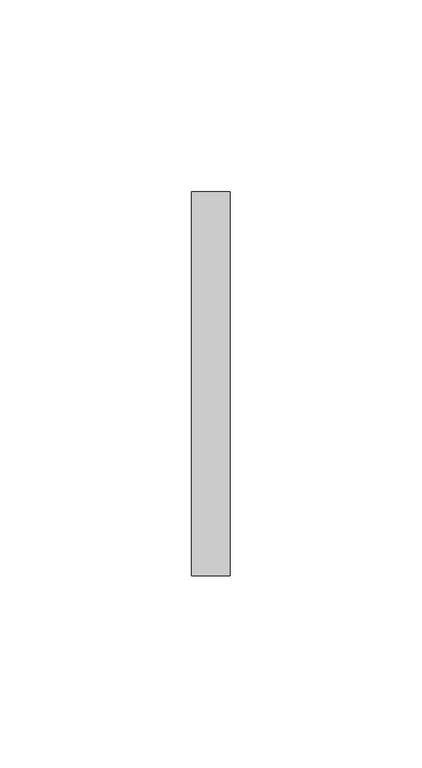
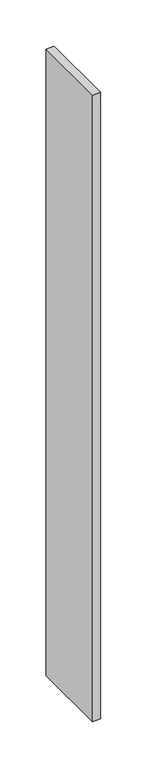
"""IFC4 building model written with IfcOpenShell, lengths in millimetres: furniture geometry, Fechamento Lateral do Painel de TV : Fechamento Lateral do Painel de TV."""

from ifc_helpers import new_model, si_unit, origin, origin_with_axes, place, context, project, spatial, polyline, outline, extrude, source, transform, mapped, element, save


def furniture_c9f555ce(model_context):
    return source(origin(), model_context, "Body", "SweptSolid", [
        extrude(outline(polyline([(0.0, 0.0), (10.0, 0.0), (10.0, -100.0), (0.0, -100.0), (0.0, 0.0)])), origin_with_axes(), (0.0, 0.0, 1.0), 825.0),
    ])


if __name__ == "__main__":
    model = new_model("IFC4")
    model_context = context("Model", 3, world=origin())
    ifc_project = project(units=[si_unit("LENGTHUNIT", "METRE", prefix="MILLI")], contexts=[model_context])
    site = spatial("IfcSite", under=ifc_project)
    building = spatial("IfcBuilding", under=site)
    placement = place(None, origin())
    furniture_shape = furniture_c9f555ce(model_context)
    element("IfcFurniture", 1, ObjectType="Fechamento Lateral do Painel de TV : Fechamento Lateral do Painel de TV", at=placement, inside=building, context=model_context, shape_type="MappedRepresentation", body=[
        mapped(furniture_shape, transform((0.0, 0.0, 0.0), x_axis=(1.0, 0.0, 0.0), y_axis=(0.0, 1.0, 0.0), z_axis=(0.0, 0.0, 1.0))),
    ])
    save(model, "model.ifc")
